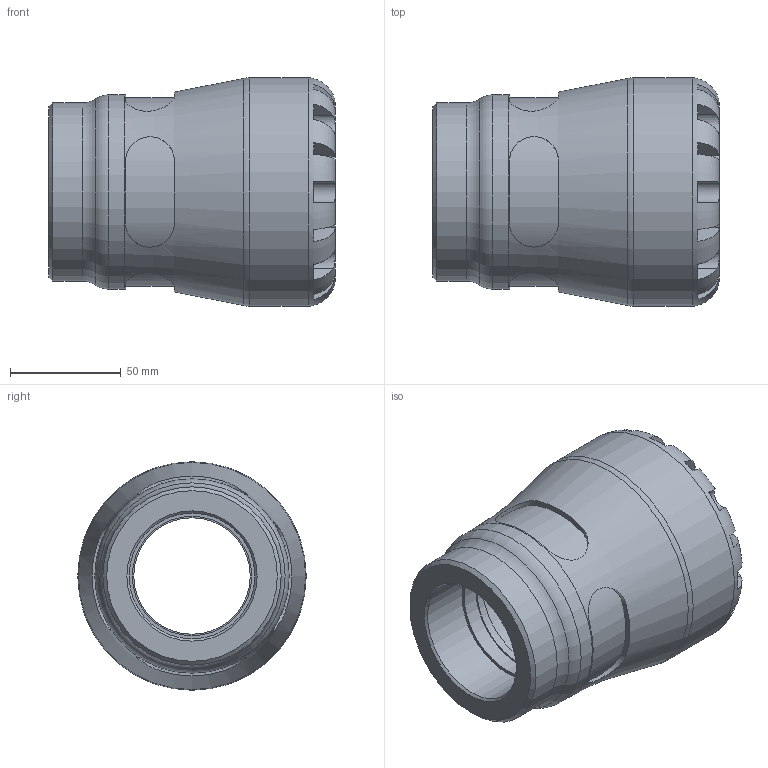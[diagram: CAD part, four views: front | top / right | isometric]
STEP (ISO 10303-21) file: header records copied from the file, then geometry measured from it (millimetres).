
FILE_DESCRIPTION(/* description */ ('PLASSON FEMALE ADAPTOR 63x2" SERIES 1'),/* implementation_level */ '2;1');
FILE_NAME(/* name */ 'C:\Dropbox\KIMPROJECTS-Inventor\99-16-3568-Processing\S1\27.01.19\1003G\1003G0063020_1903G0063020.ipt.stp',/* time_stamp */ '2019-01-27T09:13:22+02:00',/* author */ ('KIM'),/* organization */ (''),/* preprocessor_version */ 'ST-DEVELOPER v15.6',/* originating_system */ 'Autodesk Inventor 2015',/* authorisation */ '');
FILE_SCHEMA (('AUTOMOTIVE_DESIGN { 1 0 10303 214 3 1 1 }'));
Length unit declared in the file: millimetre
Products named in the file (1): 1003G0063020_1903G0063020
Bounding box: 129 x 103 x 103 mm (x, y, z)
Volume: 484994.8 mm3; surface area: 73594.8 mm2
Topology: 1 solids, 1 shells, 104 faces, 255 edges, 159 vertices
Faces by surface type: plane 61, cylinder 35, torus 5, cone 3
Full cylindrical faces by diameter (mm): 52.5 x1, 53.823 x1, 56.656 x1, 63 x1, 80.34 x1, 87.55 x1, 103 x1
Entity records: 3818 total; most frequent: CARTESIAN_POINT 1483, DIRECTION 472, ORIENTED_EDGE 470, EDGE_CURVE 235, AXIS2_PLACEMENT_3D 196, VERTEX_POINT 155, EDGE_LOOP 128, FACE_OUTER_BOUND 104
